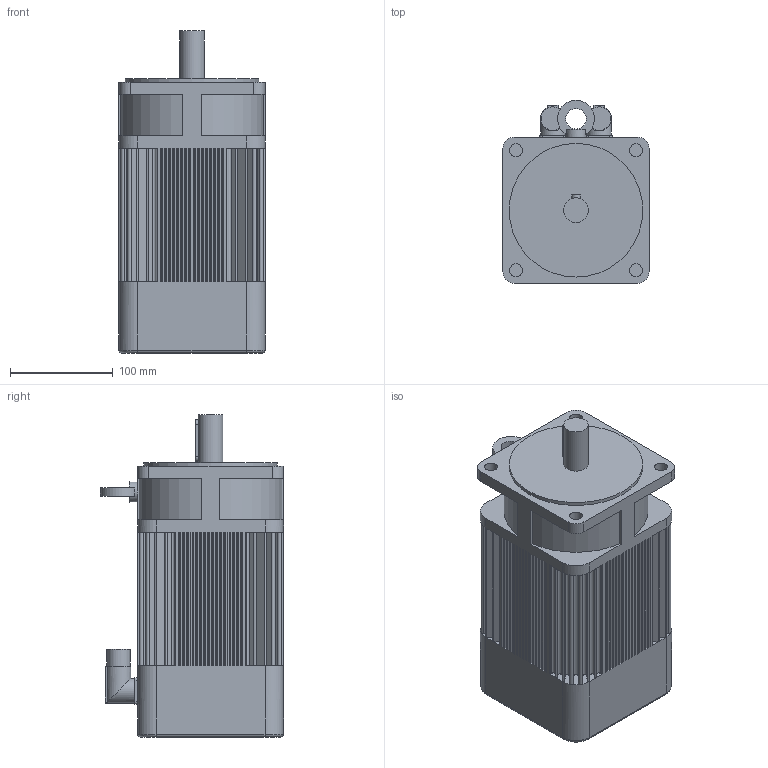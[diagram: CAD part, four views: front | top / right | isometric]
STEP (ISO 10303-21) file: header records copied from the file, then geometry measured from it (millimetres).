
FILE_DESCRIPTION(/* description */ (''),/* implementation_level */ '2;1');
FILE_NAME(/* name */ '\\Lafnas01\disegni\Archivi Lafert\3D\CAD 3D\MODELLI\Assiemi clienti\Serad\Modelli 3D Serad\B71I\Resolver\Res With Brake\B7108Ixx6B052033.ipt.stp',/* time_stamp */ '2015-09-07T10:51:50+02:00',/* author */ ('Pastrello Ylenia'),/* organization */ (''),/* preprocessor_version */ 'ST-DEVELOPER v15.6',/* originating_system */ 'Autodesk Inventor 2015',/* authorisation */ '');
FILE_SCHEMA (('AUTOMOTIVE_DESIGN { 1 0 10303 214 3 1 1 }'));
Length unit declared in the file: millimetre
Products named in the file (1): B7108Ixx6B052033
Bounding box: 142 x 178 x 313.5 mm (x, y, z)
Volume: 4983581.1 mm3; surface area: 274534.7 mm2
Topology: 1 solids, 1 shells, 547 faces, 1378 edges, 903 vertices
Faces by surface type: plane 430, cylinder 113, torus 4
Full cylindrical faces by diameter (mm): 12.5 x4, 20 x2, 22.7 x2, 24 x3, 130 x1
Entity records: 16305 total; most frequent: CARTESIAN_POINT 2863, DIRECTION 2786, ORIENTED_EDGE 2724, EDGE_CURVE 1362, LINE 1026, VECTOR 1026, VERTEX_POINT 900, AXIS2_PLACEMENT_3D 880
